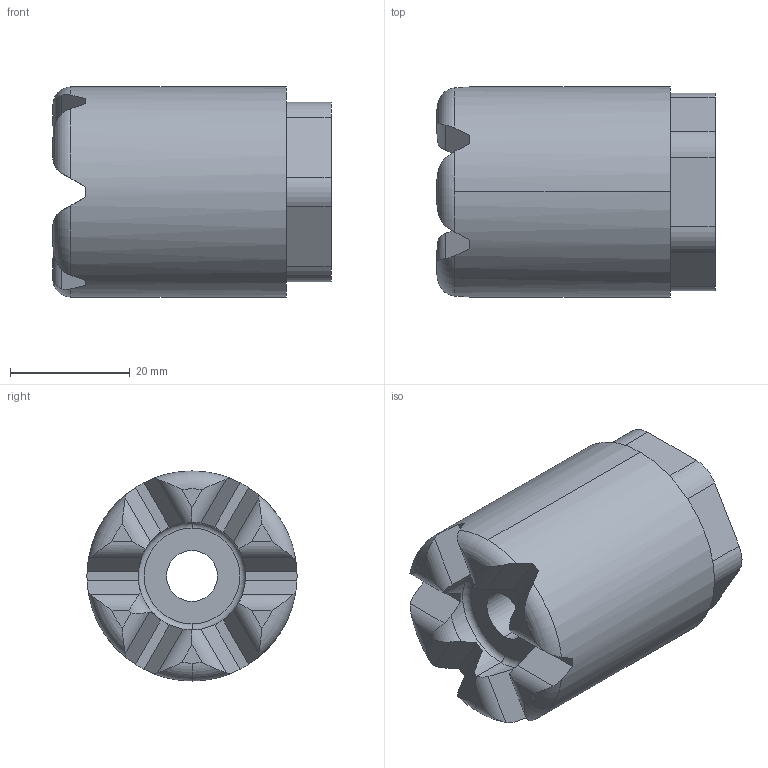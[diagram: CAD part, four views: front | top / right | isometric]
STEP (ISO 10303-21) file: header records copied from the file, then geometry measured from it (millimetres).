
FILE_DESCRIPTION (( 'STEP AP214' ), '1' );
FILE_NAME ('10134V000_Zentralwelle_Index_1.STEP', '2014-04-25T12:16:06', ( 'Admin' ), ( '' ), 'SwSTEP 2.0', 'SolidWorks 2013', '' );
FILE_SCHEMA (( 'AUTOMOTIVE_DESIGN' ));
Length unit declared in the file: millimetre
Products named in the file (1): 10134V000_Zentralwelle_Index_1
Bounding box: 46.5 x 35.1 x 35.1 mm (x, y, z)
Volume: 37965.2 mm3; surface area: 8169.4 mm2
Topology: 1 solids, 1 shells, 67 faces, 187 edges, 123 vertices
Faces by surface type: plane 33, cylinder 24, torus 10
Entity records: 2737 total; most frequent: CARTESIAN_POINT 755, ORIENTED_EDGE 374, DIRECTION 310, EDGE_CURVE 187, VERTEX_POINT 123, AXIS2_PLACEMENT_3D 122, EDGE_LOOP 70, FACE_OUTER_BOUND 67
